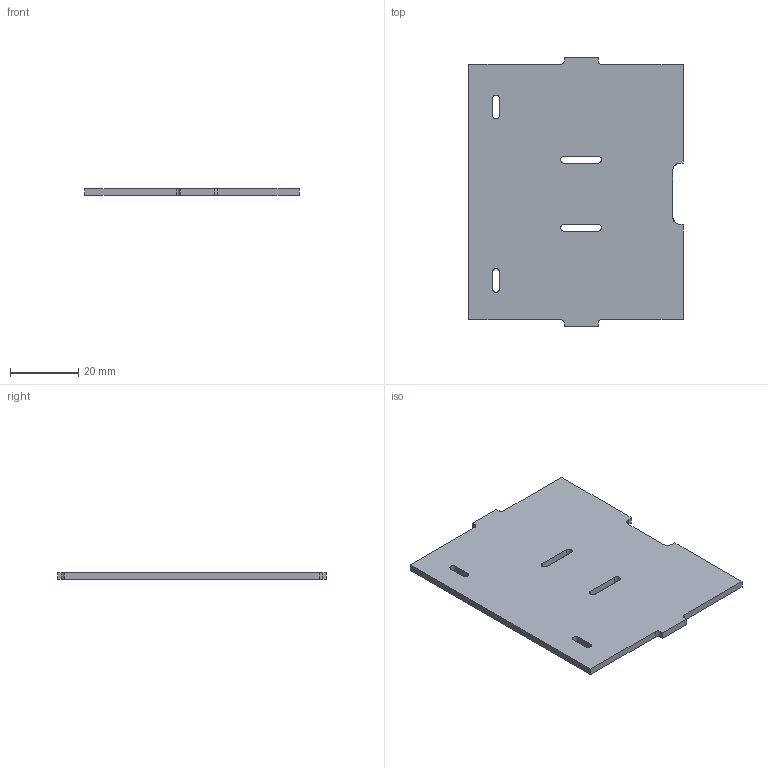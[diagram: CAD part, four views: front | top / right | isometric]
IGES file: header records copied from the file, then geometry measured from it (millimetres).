
Start section: START RECORD GO HERE.
Global section: file name: FR_11001_5 (Frame Throttle).igs; native system: IBM CATIA IGES - CATIA Version 5 Release 19 ; preprocessor: CATIA Version 5 Release 19 ; author: jacqu; organization: ASUS-TUF-JACQUE; date: 20200226.091719; units: millimetre
Bounding box: 63 x 79 x 2 mm (x, y, z)
Surface area: 10025.4 mm2 (no closed solid volume)
Topology: 0 solids, 0 shells, 43 faces, 246 edges, 246 vertices
Faces by surface type: plane 29, revolution 12, extrusion 2
